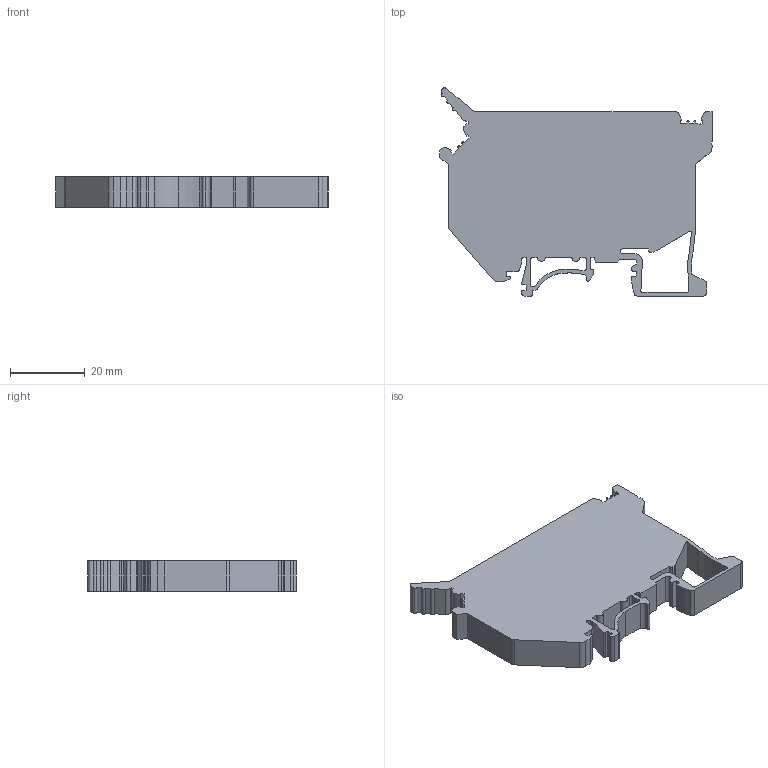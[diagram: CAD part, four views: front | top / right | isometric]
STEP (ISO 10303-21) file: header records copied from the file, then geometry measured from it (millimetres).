
FILE_DESCRIPTION(/* description */ (''),/* implementation_level */ '2;1');
FILE_NAME(/* name */ 'JUT1-4RD-1.stp',/* time_stamp */ '2024-02-18T12:23:59+08:00',/* author */ (''),/* organization */ (''),/* preprocessor_version */ 'ST-DEVELOPER v16.7',/* originating_system */ 'SIEMENS PLM Software NX 12.0',/* authorisation */ '');
FILE_SCHEMA (('AUTOMOTIVE_DESIGN { 1 0 10303 214 3 1 1 1 }'));
Length unit declared in the file: millimetre
Products named in the file (1): JUT1-4RD-1
Bounding box: 72.8 x 55.6 x 8.2 mm (x, y, z)
Volume: 21968.3 mm3; surface area: 8835.7 mm2
Topology: 1 solids, 1 shells, 160 faces, 474 edges, 316 vertices
Faces by surface type: plane 106, cylinder 54
Entity records: 5378 total; most frequent: CARTESIAN_POINT 951, ORIENTED_EDGE 948, DIRECTION 904, EDGE_CURVE 474, LINE 366, VECTOR 366, VERTEX_POINT 316, AXIS2_PLACEMENT_3D 269
